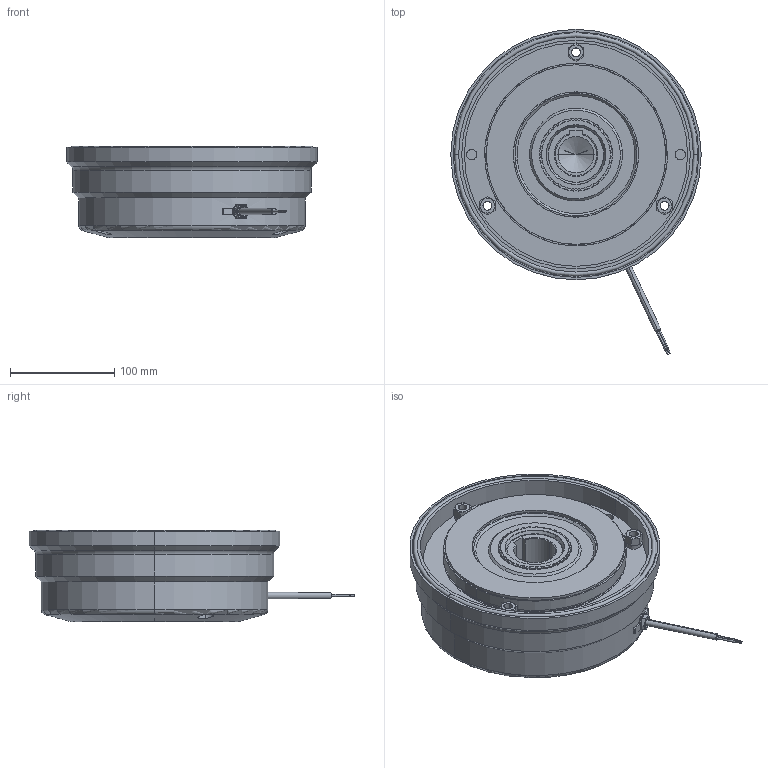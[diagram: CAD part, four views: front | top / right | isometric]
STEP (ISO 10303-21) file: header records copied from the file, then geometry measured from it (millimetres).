
FILE_DESCRIPTION (( 'STEP AP214' ), '1' );
FILE_NAME ('0828 ohne HL.STEP', '2026-04-27T12:13:59', ( '' ), ( '' ), 'SwSTEP 2.0', 'SolidWorks 2025', '' );
FILE_SCHEMA (( 'AUTOMOTIVE_DESIGN' ));
Length unit declared in the file: millimetre
Products named in the file (18): 10012544_000; 0828 ohne HL; 10007145_000; 10088671swp000; 10063407_000_für Magnet - Litze auf Umfang; 10007130_000; 10088673swa000; 10007151_000; 10001774_000_Einbaulänge 32,1mm; 10062098_000; 10007326_000; 10002811_000_Ausführung 9 Grad; 10063408_000_für Magnet; 10007521_000; 10001115_000; 10007325_000; 10001116_000_Einbauzustand D=11,5 B=6 b=3
Assembly tree (26 placements, depth 4):
  0828 ohne HL
    10088673swa000
      10088671swp000
      10063407_000_für Magnet - Litze auf Umfang
        10063408_000_für Magnet
      10062098_000
      10001116_000_Einbauzustand D=11,5 B=6 b=3
      10001115_000
      10002811_000_Ausführung 9 Grad
    10007325_000
      10007326_000
      10007151_000
      10007151_000
    10007521_000  x3
    10001774_000_Einbaulänge 32,1mm  x8
    10007130_000
    10012544_000
    10007145_000
Bounding box: 240 x 311.6 x 87.35 mm (x, y, z)
Volume: 2631391 mm3; surface area: 689218.6 mm2
Topology: 24 solids, 25 shells, 1245 faces, 3139 edges, 1925 vertices
Faces by surface type: cylinder 411, plane 362, cone 224, torus 184, bspline 58, sphere 6
Entity records: 42555 total; most frequent: CARTESIAN_POINT 14546, DIRECTION 6139, ORIENTED_EDGE 5642, EDGE_CURVE 2821, AXIS2_PLACEMENT_3D 2619, VERTEX_POINT 1751, CIRCLE 1462, EDGE_LOOP 1244
